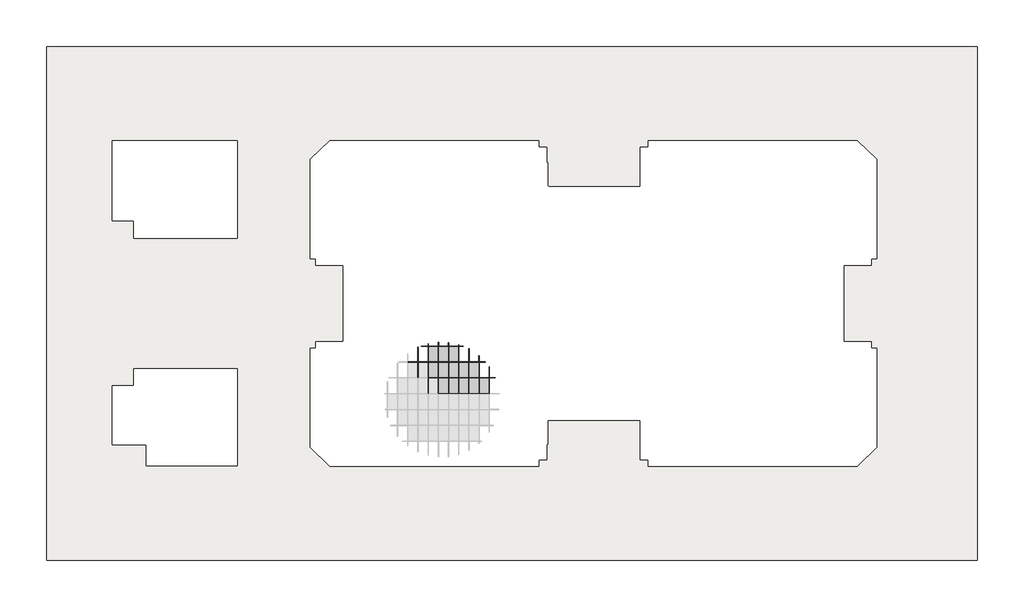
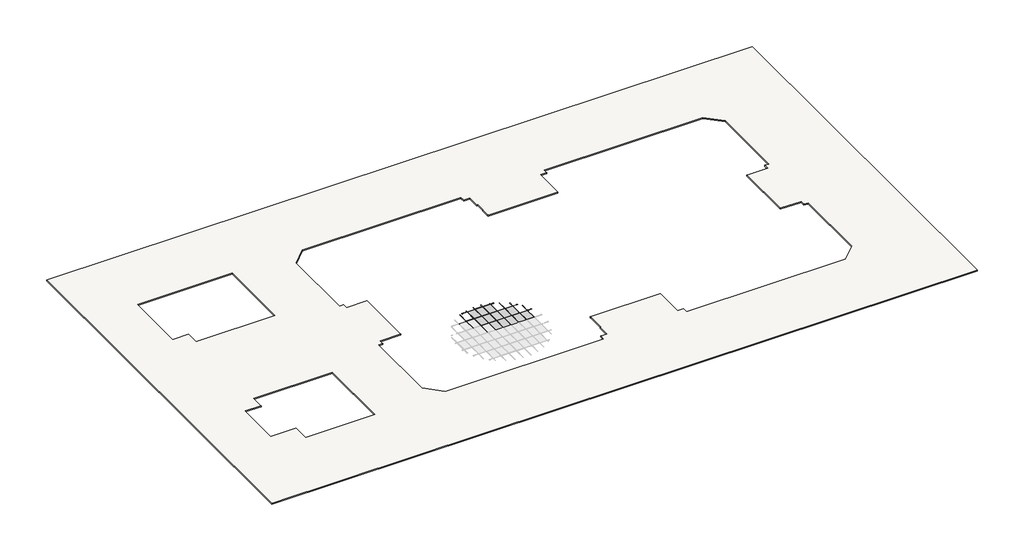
# One storey, part 2 of 2: 46 members, 13 plates, 1 slab.
"""IFC4 building model written with IfcOpenShell, lengths in millimetres."""

from ifc_helpers import new_model, si_unit, frame, origin, place, context, project, spatial, circle_curve, transform, mapped, element, save
from ifc_brep_helpers import plane_surface, cylinder_surface, advanced_brep
from components import member_0f460398, member_c475f96c, member_109a191c, member_92a3c778, member_22fd59af, member_68128557, member_23e6b94c, member_f8dc95a5, member_9c463893, member_92b00265, member_37619b6b, member_661f9a49, member_1a911b9f, member_37831322, plate_f02ba564

model = new_model("IFC4")

# Units and contexts
model_context = context("Model", 3, world=origin())
ifc_project = project(units=[si_unit("LENGTHUNIT", "METRE", prefix="MILLI")], contexts=[model_context])

# Site, building, storey
site = spatial("IfcSite", under=ifc_project)
building = spatial("IfcBuilding", under=site)
storey = spatial("IfcBuildingStorey", under=building, Name="樓層 3", Elevation=8500.0)

# Members
placement = place(None, origin())
member_shape = member_0f460398(model_context)
element("IfcMember", 1, ObjectType="圓形豎框 : 25mm 半徑", at=placement, inside=storey, context=model_context, shape_type="MappedRepresentation", body=[
    mapped(member_shape, transform((-3375.3955556, -13215.6700726, 9144.0), x_axis=(0.0, 1.0, 0.0), y_axis=(0.0, 0.0, 1.0), z_axis=(1.0, 0.0, 0.0))),
])
element("IfcMember", 2, ObjectType="圓形豎框 : 25mm 半徑", at=placement, inside=storey, context=model_context, shape_type="MappedRepresentation", body=[
    mapped(member_shape, transform((-5175.3955556, -13215.6700726, 9144.0), x_axis=(0.0, 1.0, 0.0), y_axis=(0.0, 0.0, 1.0), z_axis=(1.0, 0.0, 0.0))),
])
element("IfcMember", 3, ObjectType="圓形豎框 : 25mm 半徑", at=placement, inside=storey, context=model_context, shape_type="MappedRepresentation", body=[
    mapped(member_shape, transform((-6975.3955556, -13215.6700726, 9144.0), x_axis=(0.0, 1.0, 0.0), y_axis=(0.0, 0.0, 1.0), z_axis=(1.0, 0.0, 0.0))),
])
element("IfcMember", 4, ObjectType="圓形豎框 : 25mm 半徑", at=placement, inside=storey, context=model_context, shape_type="MappedRepresentation", body=[
    mapped(member_shape, transform((-8775.3955556, -13215.6700726, 9144.0), x_axis=(0.0, 1.0, 0.0), y_axis=(0.0, 0.0, 1.0), z_axis=(1.0, 0.0, 0.0))),
])
element("IfcMember", 5, ObjectType="圓形豎框 : 25mm 半徑", at=placement, inside=storey, context=model_context, shape_type="MappedRepresentation", body=[
    mapped(member_shape, transform((-10575.3955556, -13215.6700726, 9144.0), x_axis=(0.0, 1.0, 0.0), y_axis=(0.0, 0.0, 1.0), z_axis=(1.0, 0.0, 0.0))),
])
element("IfcMember", 6, ObjectType="圓形豎框 : 25mm 半徑", at=placement, inside=storey, context=model_context, shape_type="MappedRepresentation", body=[
    mapped(member_shape, transform((-12375.3955556, -13215.6700726, 9144.0), x_axis=(0.0, 1.0, 0.0), y_axis=(0.0, 0.0, 1.0), z_axis=(1.0, 0.0, 0.0))),
])
element("IfcMember", 7, ObjectType="圓形豎框 : 25mm 半徑", at=placement, inside=storey, context=model_context, shape_type="MappedRepresentation", body=[
    mapped(member_shape, transform((-5175.3955556, -10415.6700726, 9144.0), x_axis=(0.0, 1.0, 0.0), y_axis=(0.0, 0.0, 1.0), z_axis=(1.0, 0.0, 0.0))),
])
element("IfcMember", 8, ObjectType="圓形豎框 : 25mm 半徑", at=placement, inside=storey, context=model_context, shape_type="MappedRepresentation", body=[
    mapped(member_shape, transform((-6975.3955556, -10415.6700726, 9144.0), x_axis=(0.0, 1.0, 0.0), y_axis=(0.0, 0.0, 1.0), z_axis=(1.0, 0.0, 0.0))),
])
element("IfcMember", 9, ObjectType="圓形豎框 : 25mm 半徑", at=placement, inside=storey, context=model_context, shape_type="MappedRepresentation", body=[
    mapped(member_shape, transform((-8775.3955556, -10415.6700726, 9144.0), x_axis=(0.0, 1.0, 0.0), y_axis=(0.0, 0.0, 1.0), z_axis=(1.0, 0.0, 0.0))),
])
element("IfcMember", 10, ObjectType="圓形豎框 : 25mm 半徑", at=placement, inside=storey, context=model_context, shape_type="MappedRepresentation", body=[
    mapped(member_shape, transform((-10575.3955556, -10415.6700726, 9144.0), x_axis=(0.0, 1.0, 0.0), y_axis=(0.0, 0.0, 1.0), z_axis=(1.0, 0.0, 0.0))),
])
element("IfcMember", 11, ObjectType="圓形豎框 : 25mm 半徑", at=placement, inside=storey, context=model_context, shape_type="MappedRepresentation", body=[
    mapped(member_shape, transform((-12375.3955556, -10415.6700726, 9144.0), x_axis=(0.0, 1.0, 0.0), y_axis=(0.0, 0.0, 1.0), z_axis=(1.0, 0.0, 0.0))),
])
element("IfcMember", 12, ObjectType="圓形豎框 : 25mm 半徑", at=placement, inside=storey, context=model_context, shape_type="MappedRepresentation", body=[
    mapped(member_shape, transform((-14175.3955556, -10415.6700726, 9144.0), x_axis=(0.0, 1.0, 0.0), y_axis=(0.0, 0.0, 1.0), z_axis=(1.0, 0.0, 0.0))),
])
element("IfcMember", 13, ObjectType="圓形豎框 : 25mm 半徑", at=placement, inside=storey, context=model_context, shape_type="MappedRepresentation", body=[
    mapped(member_shape, transform((-15975.3955556, -10415.6700726, 9144.0), x_axis=(0.0, 1.0, 0.0), y_axis=(0.0, 0.0, 1.0), z_axis=(1.0, 0.0, 0.0))),
])
element("IfcMember", 14, ObjectType="圓形豎框 : 25mm 半徑", at=placement, inside=storey, context=model_context, shape_type="MappedRepresentation", body=[
    mapped(member_shape, transform((-8775.3955556, -7615.6700726, 9144.0), x_axis=(0.0, 1.0, 0.0), y_axis=(0.0, 0.0, 1.0), z_axis=(1.0, 0.0, 0.0))),
])
element("IfcMember", 15, ObjectType="圓形豎框 : 25mm 半徑", at=placement, inside=storey, context=model_context, shape_type="MappedRepresentation", body=[
    mapped(member_shape, transform((-10575.3955556, -7615.6700726, 9144.0), x_axis=(0.0, 1.0, 0.0), y_axis=(0.0, 0.0, 1.0), z_axis=(1.0, 0.0, 0.0))),
])
element("IfcMember", 16, ObjectType="圓形豎框 : 25mm 半徑", at=placement, inside=storey, context=model_context, shape_type="MappedRepresentation", body=[
    mapped(member_shape, transform((-12375.3955556, -7615.6700726, 9144.0), x_axis=(0.0, 1.0, 0.0), y_axis=(0.0, 0.0, 1.0), z_axis=(1.0, 0.0, 0.0))),
])
member_2_shape = member_c475f96c(model_context)
element("IfcMember", 17, ObjectType="圓形豎框 : 25mm 半徑", at=placement, inside=storey, context=model_context, shape_type="MappedRepresentation", body=[
    mapped(member_2_shape, transform((-2308.9229376, -13215.6700726, 9144.0), x_axis=(0.0, 1.0, 0.0), y_axis=(0.0, 0.0, 1.0), z_axis=(1.0, 0.0, 0.0))),
])
member_3_shape = member_109a191c(model_context)
element("IfcMember", 18, ObjectType="圓形豎框 : 25mm 半徑", at=placement, inside=storey, context=model_context, shape_type="MappedRepresentation", body=[
    mapped(member_3_shape, transform((-4032.3098346, -10415.6700726, 9144.0), x_axis=(0.0, 1.0, 0.0), y_axis=(0.0, 0.0, 1.0), z_axis=(1.0, 0.0, 0.0))),
])
member_4_shape = member_92a3c778(model_context)
element("IfcMember", 19, ObjectType="圓形豎框 : 25mm 半徑", at=placement, inside=storey, context=model_context, shape_type="MappedRepresentation", body=[
    mapped(member_4_shape, transform((-7996.4524665, -7615.6700726, 9144.0), x_axis=(0.0, 1.0, 0.0), y_axis=(0.0, 0.0, 1.0), z_axis=(1.0, 0.0, 0.0))),
])
member_5_shape = member_22fd59af(model_context)
element("IfcMember", 20, ObjectType="圓形豎框 : 25mm 半徑", at=placement, inside=storey, context=model_context, shape_type="MappedRepresentation", body=[
    mapped(member_5_shape, transform((-14175.3955556, -7615.6700726, 9144.0), x_axis=(0.0, 1.0, 0.0), y_axis=(0.0, 0.0, 1.0), z_axis=(1.0, 0.0, 0.0))),
])
member_6_shape = member_68128557(model_context)
element("IfcMember", 21, ObjectType="圓形豎框 : 25mm 半徑", at=placement, inside=storey, context=model_context, shape_type="MappedRepresentation", body=[
    mapped(member_6_shape, transform((-3350.3955556, -11295.0875121, 9144.0), x_axis=(-1.0, 0.0, 0.0), y_axis=(0.0, 0.0, 1.0), z_axis=(0.0, 1.0, 0.0))),
])
member_7_shape = member_23e6b94c(model_context)
element("IfcMember", 22, ObjectType="圓形豎框 : 25mm 半徑", at=placement, inside=storey, context=model_context, shape_type="MappedRepresentation", body=[
    mapped(member_7_shape, transform((-5150.3955556, -9311.9981023, 9144.0), x_axis=(-1.0, 0.0, 0.0), y_axis=(0.0, 0.0, 1.0), z_axis=(0.0, 1.0, 0.0))),
])
member_8_shape = member_f8dc95a5(model_context)
element("IfcMember", 23, ObjectType="圓形豎框 : 25mm 半徑", at=placement, inside=storey, context=model_context, shape_type="MappedRepresentation", body=[
    mapped(member_8_shape, transform((-6950.3955556, -8095.7604296, 9144.0), x_axis=(-1.0, 0.0, 0.0), y_axis=(0.0, 0.0, 1.0), z_axis=(0.0, 1.0, 0.0))),
])
member_9_shape = member_9c463893(model_context)
element("IfcMember", 24, ObjectType="圓形豎框 : 25mm 半徑", at=placement, inside=storey, context=model_context, shape_type="MappedRepresentation", body=[
    mapped(member_9_shape, transform((-8750.3955556, -7353.8655321, 9144.0), x_axis=(-1.0, 0.0, 0.0), y_axis=(0.0, 0.0, 1.0), z_axis=(0.0, 1.0, 0.0))),
])
member_10_shape = member_92b00265(model_context)
element("IfcMember", 25, ObjectType="圓形豎框 : 25mm 半徑", at=placement, inside=storey, context=model_context, shape_type="MappedRepresentation", body=[
    mapped(member_10_shape, transform((-10550.3955556, -6981.0759937, 9144.0), x_axis=(-1.0, 0.0, 0.0), y_axis=(0.0, 0.0, 1.0), z_axis=(0.0, 1.0, 0.0))),
])
member_11_shape = member_37619b6b(model_context)
element("IfcMember", 26, ObjectType="圓形豎框 : 25mm 半徑", at=placement, inside=storey, context=model_context, shape_type="MappedRepresentation", body=[
    mapped(member_11_shape, transform((-12350.3955556, -6936.5562391, 9144.0), x_axis=(-1.0, 0.0, 0.0), y_axis=(0.0, 0.0, 1.0), z_axis=(0.0, 1.0, 0.0))),
])
member_12_shape = member_661f9a49(model_context)
element("IfcMember", 27, ObjectType="圓形豎框 : 25mm 半徑", at=placement, inside=storey, context=model_context, shape_type="MappedRepresentation", body=[
    mapped(member_12_shape, transform((-14150.3955556, -7215.8542543, 9144.0), x_axis=(-1.0, 0.0, 0.0), y_axis=(0.0, 0.0, 1.0), z_axis=(0.0, 1.0, 0.0))),
])
member_13_shape = member_1a911b9f(model_context)
element("IfcMember", 28, ObjectType="圓形豎框 : 25mm 半徑", at=placement, inside=storey, context=model_context, shape_type="MappedRepresentation", body=[
    mapped(member_13_shape, transform((-15950.3955556, -7848.3596075, 9144.0), x_axis=(-1.0, 0.0, 0.0), y_axis=(0.0, 0.0, 1.0), z_axis=(0.0, 1.0, 0.0))),
])
member_14_shape = member_37831322(model_context)
element("IfcMember", 29, ObjectType="圓形豎框 : 25mm 半徑", at=placement, inside=storey, context=model_context, shape_type="MappedRepresentation", body=[
    mapped(member_14_shape, transform((-3350.3955556, -13215.6700726, 9144.0), x_axis=(-1.0, 0.0, 0.0), y_axis=(0.0, 0.0, 1.0), z_axis=(0.0, 1.0, 0.0))),
])
element("IfcMember", 30, ObjectType="圓形豎框 : 25mm 半徑", at=placement, inside=storey, context=model_context, shape_type="MappedRepresentation", body=[
    mapped(member_14_shape, transform((-5150.3955556, -13215.6700726, 9144.0), x_axis=(-1.0, 0.0, 0.0), y_axis=(0.0, 0.0, 1.0), z_axis=(0.0, 1.0, 0.0))),
])
element("IfcMember", 31, ObjectType="圓形豎框 : 25mm 半徑", at=placement, inside=storey, context=model_context, shape_type="MappedRepresentation", body=[
    mapped(member_14_shape, transform((-6950.3955556, -13215.6700726, 9144.0), x_axis=(-1.0, 0.0, 0.0), y_axis=(0.0, 0.0, 1.0), z_axis=(0.0, 1.0, 0.0))),
])
element("IfcMember", 32, ObjectType="圓形豎框 : 25mm 半徑", at=placement, inside=storey, context=model_context, shape_type="MappedRepresentation", body=[
    mapped(member_14_shape, transform((-8750.3955556, -13215.6700726, 9144.0), x_axis=(-1.0, 0.0, 0.0), y_axis=(0.0, 0.0, 1.0), z_axis=(0.0, 1.0, 0.0))),
])
element("IfcMember", 33, ObjectType="圓形豎框 : 25mm 半徑", at=placement, inside=storey, context=model_context, shape_type="MappedRepresentation", body=[
    mapped(member_14_shape, transform((-10550.3955556, -13215.6700726, 9144.0), x_axis=(-1.0, 0.0, 0.0), y_axis=(0.0, 0.0, 1.0), z_axis=(0.0, 1.0, 0.0))),
])
element("IfcMember", 34, ObjectType="圓形豎框 : 25mm 半徑", at=placement, inside=storey, context=model_context, shape_type="MappedRepresentation", body=[
    mapped(member_14_shape, transform((-12350.3955556, -13215.6700726, 9144.0), x_axis=(-1.0, 0.0, 0.0), y_axis=(0.0, 0.0, 1.0), z_axis=(0.0, 1.0, 0.0))),
])
element("IfcMember", 35, ObjectType="圓形豎框 : 25mm 半徑", at=placement, inside=storey, context=model_context, shape_type="MappedRepresentation", body=[
    mapped(member_14_shape, transform((-14150.3955556, -13215.6700726, 9144.0), x_axis=(-1.0, 0.0, 0.0), y_axis=(0.0, 0.0, 1.0), z_axis=(0.0, 1.0, 0.0))),
])
element("IfcMember", 36, ObjectType="圓形豎框 : 25mm 半徑", at=placement, inside=storey, context=model_context, shape_type="MappedRepresentation", body=[
    mapped(member_14_shape, transform((-5150.3955556, -10415.6700726, 9144.0), x_axis=(-1.0, 0.0, 0.0), y_axis=(0.0, 0.0, 1.0), z_axis=(0.0, 1.0, 0.0))),
])
element("IfcMember", 37, ObjectType="圓形豎框 : 25mm 半徑", at=placement, inside=storey, context=model_context, shape_type="MappedRepresentation", body=[
    mapped(member_14_shape, transform((-6950.3955556, -10415.6700726, 9144.0), x_axis=(-1.0, 0.0, 0.0), y_axis=(0.0, 0.0, 1.0), z_axis=(0.0, 1.0, 0.0))),
])
element("IfcMember", 38, ObjectType="圓形豎框 : 25mm 半徑", at=placement, inside=storey, context=model_context, shape_type="MappedRepresentation", body=[
    mapped(member_14_shape, transform((-8750.3955556, -10415.6700726, 9144.0), x_axis=(-1.0, 0.0, 0.0), y_axis=(0.0, 0.0, 1.0), z_axis=(0.0, 1.0, 0.0))),
])
element("IfcMember", 39, ObjectType="圓形豎框 : 25mm 半徑", at=placement, inside=storey, context=model_context, shape_type="MappedRepresentation", body=[
    mapped(member_14_shape, transform((-10550.3955556, -10415.6700726, 9144.0), x_axis=(-1.0, 0.0, 0.0), y_axis=(0.0, 0.0, 1.0), z_axis=(0.0, 1.0, 0.0))),
])
element("IfcMember", 40, ObjectType="圓形豎框 : 25mm 半徑", at=placement, inside=storey, context=model_context, shape_type="MappedRepresentation", body=[
    mapped(member_14_shape, transform((-12350.3955556, -10415.6700726, 9144.0), x_axis=(-1.0, 0.0, 0.0), y_axis=(0.0, 0.0, 1.0), z_axis=(0.0, 1.0, 0.0))),
])
element("IfcMember", 41, ObjectType="圓形豎框 : 25mm 半徑", at=placement, inside=storey, context=model_context, shape_type="MappedRepresentation", body=[
    mapped(member_14_shape, transform((-14150.3955556, -10415.6700726, 9144.0), x_axis=(-1.0, 0.0, 0.0), y_axis=(0.0, 0.0, 1.0), z_axis=(0.0, 1.0, 0.0))),
])
element("IfcMember", 42, ObjectType="圓形豎框 : 25mm 半徑", at=placement, inside=storey, context=model_context, shape_type="MappedRepresentation", body=[
    mapped(member_14_shape, transform((-15950.3955556, -10415.6700726, 9144.0), x_axis=(-1.0, 0.0, 0.0), y_axis=(0.0, 0.0, 1.0), z_axis=(0.0, 1.0, 0.0))),
])
element("IfcMember", 43, ObjectType="圓形豎框 : 25mm 半徑", at=placement, inside=storey, context=model_context, shape_type="MappedRepresentation", body=[
    mapped(member_14_shape, transform((-8750.3955556, -7615.6700726, 9144.0), x_axis=(-1.0, 0.0, 0.0), y_axis=(0.0, 0.0, 1.0), z_axis=(0.0, 1.0, 0.0))),
])
element("IfcMember", 44, ObjectType="圓形豎框 : 25mm 半徑", at=placement, inside=storey, context=model_context, shape_type="MappedRepresentation", body=[
    mapped(member_14_shape, transform((-10550.3955556, -7615.6700726, 9144.0), x_axis=(-1.0, 0.0, 0.0), y_axis=(0.0, 0.0, 1.0), z_axis=(0.0, 1.0, 0.0))),
])
element("IfcMember", 45, ObjectType="圓形豎框 : 25mm 半徑", at=placement, inside=storey, context=model_context, shape_type="MappedRepresentation", body=[
    mapped(member_14_shape, transform((-12350.3955556, -7615.6700726, 9144.0), x_axis=(-1.0, 0.0, 0.0), y_axis=(0.0, 0.0, 1.0), z_axis=(0.0, 1.0, 0.0))),
])
element("IfcMember", 46, ObjectType="圓形豎框 : 25mm 半徑", at=placement, inside=storey, context=model_context, shape_type="MappedRepresentation", body=[
    mapped(member_14_shape, transform((-14150.3955556, -7615.6700726, 9144.0), x_axis=(-1.0, 0.0, 0.0), y_axis=(0.0, 0.0, 1.0), z_axis=(0.0, 1.0, 0.0))),
])

# Plates
plate_shape = plate_f02ba564(model_context)
element("IfcPlate", 47, ObjectType="系統嵌板 : 玻璃 1.0cm", at=placement, inside=storey, context=model_context, shape_type="MappedRepresentation", body=[
    mapped(plate_shape, transform((-4250.3955556, -15990.6700726, 9144.0), x_axis=(-1.0, 0.0, 0.0), y_axis=(0.0, 0.0, 1.0), z_axis=(0.0, 1.0, 0.0))),
])
element("IfcPlate", 48, ObjectType="系統嵌板 : 玻璃 1.0cm", at=placement, inside=storey, context=model_context, shape_type="MappedRepresentation", body=[
    mapped(plate_shape, transform((-6050.3955556, -15990.6700726, 9144.0), x_axis=(-1.0, 0.0, 0.0), y_axis=(0.0, 0.0, 1.0), z_axis=(0.0, 1.0, 0.0))),
])
element("IfcPlate", 49, ObjectType="系統嵌板 : 玻璃 1.0cm", at=placement, inside=storey, context=model_context, shape_type="MappedRepresentation", body=[
    mapped(plate_shape, transform((-7850.3955556, -15990.6700726, 9144.0), x_axis=(-1.0, 0.0, 0.0), y_axis=(0.0, 0.0, 1.0), z_axis=(0.0, 1.0, 0.0))),
])
element("IfcPlate", 50, ObjectType="系統嵌板 : 玻璃 1.0cm", at=placement, inside=storey, context=model_context, shape_type="MappedRepresentation", body=[
    mapped(plate_shape, transform((-9650.3955556, -15990.6700726, 9144.0), x_axis=(-1.0, 0.0, 0.0), y_axis=(0.0, 0.0, 1.0), z_axis=(0.0, 1.0, 0.0))),
])
element("IfcPlate", 51, ObjectType="系統嵌板 : 玻璃 1.0cm", at=placement, inside=storey, context=model_context, shape_type="MappedRepresentation", body=[
    mapped(plate_shape, transform((-11450.3955556, -15990.6700726, 9144.0), x_axis=(-1.0, 0.0, 0.0), y_axis=(0.0, 0.0, 1.0), z_axis=(0.0, 1.0, 0.0))),
])
element("IfcPlate", 52, ObjectType="系統嵌板 : 玻璃 1.0cm", at=placement, inside=storey, context=model_context, shape_type="MappedRepresentation", body=[
    mapped(plate_shape, transform((-6050.3955556, -13190.6700726, 9144.0), x_axis=(-1.0, 0.0, 0.0), y_axis=(0.0, 0.0, 1.0), z_axis=(0.0, 1.0, 0.0))),
])
element("IfcPlate", 53, ObjectType="系統嵌板 : 玻璃 1.0cm", at=placement, inside=storey, context=model_context, shape_type="MappedRepresentation", body=[
    mapped(plate_shape, transform((-7850.3955556, -13190.6700726, 9144.0), x_axis=(-1.0, 0.0, 0.0), y_axis=(0.0, 0.0, 1.0), z_axis=(0.0, 1.0, 0.0))),
])
element("IfcPlate", 54, ObjectType="系統嵌板 : 玻璃 1.0cm", at=placement, inside=storey, context=model_context, shape_type="MappedRepresentation", body=[
    mapped(plate_shape, transform((-9650.3955556, -13190.6700726, 9144.0), x_axis=(-1.0, 0.0, 0.0), y_axis=(0.0, 0.0, 1.0), z_axis=(0.0, 1.0, 0.0))),
])
element("IfcPlate", 55, ObjectType="系統嵌板 : 玻璃 1.0cm", at=placement, inside=storey, context=model_context, shape_type="MappedRepresentation", body=[
    mapped(plate_shape, transform((-11450.3955556, -13190.6700726, 9144.0), x_axis=(-1.0, 0.0, 0.0), y_axis=(0.0, 0.0, 1.0), z_axis=(0.0, 1.0, 0.0))),
])
element("IfcPlate", 56, ObjectType="系統嵌板 : 玻璃 1.0cm", at=placement, inside=storey, context=model_context, shape_type="MappedRepresentation", body=[
    mapped(plate_shape, transform((-13250.3955556, -13190.6700726, 9144.0), x_axis=(-1.0, 0.0, 0.0), y_axis=(0.0, 0.0, 1.0), z_axis=(0.0, 1.0, 0.0))),
])
element("IfcPlate", 57, ObjectType="系統嵌板 : 玻璃 1.0cm", at=placement, inside=storey, context=model_context, shape_type="MappedRepresentation", body=[
    mapped(plate_shape, transform((-9650.3955556, -10390.6700726, 9144.0), x_axis=(-1.0, 0.0, 0.0), y_axis=(0.0, 0.0, 1.0), z_axis=(0.0, 1.0, 0.0))),
])
element("IfcPlate", 58, ObjectType="系統嵌板 : 玻璃 1.0cm", at=placement, inside=storey, context=model_context, shape_type="MappedRepresentation", body=[
    mapped(plate_shape, transform((-11450.3955556, -10390.6700726, 9144.0), x_axis=(-1.0, 0.0, 0.0), y_axis=(0.0, 0.0, 1.0), z_axis=(0.0, 1.0, 0.0))),
])
element("IfcPlate", 59, ObjectType="系統嵌板 : 玻璃 1.0cm", at=placement, inside=storey, context=model_context, shape_type="MappedRepresentation", body=[
    mapped(plate_shape, transform((-13250.3955556, -10390.6700726, 9144.0), x_axis=(-1.0, 0.0, 0.0), y_axis=(0.0, 0.0, 1.0), z_axis=(0.0, 1.0, 0.0))),
])

# Slab
element("IfcSlab", 60, ObjectType="基板 - 25cm", at=placement, inside=storey, context=model_context, shape_type="AdvancedBrep", body=[
    advanced_brep(
    [(82913.7769574, 45327.9067124, 8250.0), (82913.7769574, -45467.0932876, 8250.0), (-81591.2230426, -45467.0932876, 8250.0), (-81591.2230426, 45327.9067124, 8250.0), (61705.1068576, -28837.0932876, 8250.0), (65103.7769574, -25500.0305008, 8250.0), (65103.7769574, -7967.0932876, 8250.0), (64123.7769574, -7967.0932876, 8250.0), (64123.7769574, -6827.0932876, 8250.0), (59298.7769574, -6827.0932876, 8250.0), (59298.7769574, 6712.9067124, 8250.0), (64123.7769574, 6712.9067124, 8250.0), (64123.7769574, 7852.9067124, 8250.0), (65103.7769574, 7852.9067124, 8250.0), (65103.7769574, 25385.8439255, 8250.0), (61705.1068576, 28722.9067124, 8250.0), (24773.7769574, 28722.9067124, 8250.0), (24773.7769574, 27570.4067124, 8250.0), (23333.7769574, 27570.4067124, 8250.0), (23333.7769574, 20677.9067124, 8250.0), (23243.7769574, 20587.9067124, 8250.0), (7128.4112757, 20587.9067124, 8250.0), (7013.7769574, 20653.2723941, 8250.0), (7013.7769574, 24817.9067124, 8250.0), (6813.7769574, 24817.9067124, 8250.0), (6813.7769574, 27570.4067124, 8250.0), (5373.7769574, 27570.4067124, 8250.0), (5373.7769574, 28722.9067124, 8250.0), (-31557.5529427, 28722.9067124, 8250.0), (-34956.2230426, 25385.8439255, 8250.0), (-34956.2230426, 7852.9067124, 8250.0), (-33976.2230426, 7852.9067124, 8250.0), (-33976.2230426, 6712.9067124, 8250.0), (-29151.2230426, 6712.9067124, 8250.0), (-29151.2230426, -6827.0932876, 8250.0), (-33976.2230426, -6827.0932876, 8250.0), (-33976.2230426, -7967.0932876, 8250.0), (-34956.2230426, -7967.0932876, 8250.0), (-34956.2230426, -25500.0305008, 8250.0), (-31557.5529427, -28837.0932876, 8250.0), (5373.7769574, -28837.0932876, 8250.0), (5373.7769574, -27684.5932876, 8250.0), (6813.7769574, -27684.5932876, 8250.0), (6813.7769574, -24932.0932876, 8250.0), (7013.7769574, -24932.0932876, 8250.0), (7013.7769574, -20752.0932876, 8250.0), (7063.7769574, -20702.0932876, 8250.0), (23283.7769574, -20702.0932876, 8250.0), (23333.7769574, -20752.0932876, 8250.0), (23333.7769574, -27684.5932876, 8250.0), (24773.7769574, -27684.5932876, 8250.0), (24773.7769574, -28837.0932876, 8250.0), (-66206.2230426, 11487.3962872, 8250.0), (-47926.2230426, 11487.3962872, 8250.0), (-47926.2230426, 28677.9067124, 8250.0), (-69966.2230426, 28677.9067124, 8250.0), (-69966.2230426, 14529.9067124, 8250.0), (-66206.2230426, 14529.9067124, 8250.0), (-66206.2230426, 14379.9067124, 8250.0), (-69966.2230426, -14644.0932876, 8250.0), (-69966.2230426, -25005.0932876, 8250.0), (-63996.109987, -25005.0932876, 8250.0), (-63996.109987, -25155.0932876, 8250.0), (-63996.109987, -28792.0932876, 8250.0), (-47926.2230426, -28792.0932876, 8250.0), (-47926.2230426, -11601.5828624, 8250.0), (-66206.2230426, -11601.5828624, 8250.0), (-66206.2230426, -14644.0932876, 8250.0), (-66356.2230426, -14644.0932876, 8250.0), (82913.7769574, 45327.9067124, 8500.0), (-81591.2230426, 45327.9067124, 8500.0), (-81591.2230426, -45467.0932876, 8500.0), (82913.7769574, -45467.0932876, 8500.0), (61705.1068576, -28837.0932876, 8500.0), (24773.7769574, -28837.0932876, 8500.0), (24773.7769574, -27684.5932876, 8500.0), (23333.7769574, -27684.5932876, 8500.0), (23333.7769574, -20752.0932876, 8500.0), (23283.7769574, -20702.0932876, 8500.0), (7063.7769574, -20702.0932876, 8500.0), (7013.7769574, -20752.0932876, 8500.0), (7013.7769574, -24932.0932876, 8500.0), (6813.7769574, -24932.0932876, 8500.0), (6813.7769574, -27684.5932876, 8500.0), (5373.7769574, -27684.5932876, 8500.0), (5373.7769574, -28837.0932876, 8500.0), (-31557.5529427, -28837.0932876, 8500.0), (-34956.2230426, -25500.0305008, 8500.0), (-34956.2230426, -7967.0932876, 8500.0), (-33976.2230426, -7967.0932876, 8500.0), (-33976.2230426, -6827.0932876, 8500.0), (-29151.2230426, -6827.0932876, 8500.0), (-29151.2230426, 6712.9067124, 8500.0), (-33976.2230426, 6712.9067124, 8500.0), (-33976.2230426, 7852.9067124, 8500.0), (-34956.2230426, 7852.9067124, 8500.0), (-34956.2230426, 25385.8439255, 8500.0), (-31557.5529427, 28722.9067124, 8500.0), (5373.7769574, 28722.9067124, 8500.0), (5373.7769574, 27570.4067124, 8500.0), (6813.7769574, 27570.4067124, 8500.0), (6813.7769574, 24817.9067124, 8500.0), (7013.7769574, 24817.9067124, 8500.0), (7013.7769574, 20653.2723941, 8500.0), (7128.4112757, 20587.9067124, 8500.0), (23243.7769574, 20587.9067124, 8500.0), (23333.7769574, 20677.9067124, 8500.0), (23333.7769574, 27570.4067124, 8500.0), (24773.7769574, 27570.4067124, 8500.0), (24773.7769574, 28722.9067124, 8500.0), (61705.1068576, 28722.9067124, 8500.0), (65103.7769574, 25385.8439255, 8500.0), (65103.7769574, 7852.9067124, 8500.0), (64123.7769574, 7852.9067124, 8500.0), (64123.7769574, 6712.9067124, 8500.0), (59298.7769574, 6712.9067124, 8500.0), (59298.7769574, -6827.0932876, 8500.0), (64123.7769574, -6827.0932876, 8500.0), (64123.7769574, -7967.0932876, 8500.0), (65103.7769574, -7967.0932876, 8500.0), (65103.7769574, -25500.0305008, 8500.0), (-66206.2230426, 11487.3962872, 8500.0), (-66206.2230426, 14379.9067124, 8500.0), (-66206.2230426, 14529.9067124, 8500.0), (-69966.2230426, 14529.9067124, 8500.0), (-69966.2230426, 28677.9067124, 8500.0), (-47926.2230426, 28677.9067124, 8500.0), (-47926.2230426, 11487.3962872, 8500.0), (-69966.2230426, -14644.0932876, 8500.0), (-66356.2230426, -14644.0932876, 8500.0), (-66206.2230426, -14644.0932876, 8500.0), (-66206.2230426, -11601.5828624, 8500.0), (-47926.2230426, -11601.5828624, 8500.0), (-47926.2230426, -28792.0932876, 8500.0), (-63996.109987, -28792.0932876, 8500.0), (-63996.109987, -25155.0932876, 8500.0), (-63996.109987, -25005.0932876, 8500.0), (-69966.2230426, -25005.0932876, 8500.0)],
    [
        (0, 1),
        (1, 2),
        (2, 3),
        (3, 0),
        (4, 5),
        (5, 6),
        (6, 7),
        (7, 8),
        (8, 9),
        (9, 10),
        (10, 11),
        (11, 12),
        (12, 13),
        (13, 14),
        (14, 15),
        (15, 16),
        (16, 17),
        (17, 18),
        (18, 19),
        (19, 20, circle_curve(frame((23243.7769574, 20677.9067124, 8250.0), z_axis=(0.0, 0.0, -1.0), x_axis=(1.0, 0.0, 0.0)), 90.0)),
        (20, 21),
        (21, 22, circle_curve(frame((7103.7769574, 20677.9067124, 8250.0), z_axis=(0.0, 0.0, -1.0), x_axis=(1.0, 0.0, 0.0)), 93.3105012)),
        (22, 23),
        (23, 24),
        (24, 25),
        (25, 26),
        (26, 27),
        (27, 28),
        (28, 29),
        (29, 30),
        (30, 31),
        (31, 32),
        (32, 33),
        (33, 34),
        (34, 35),
        (35, 36),
        (36, 37),
        (37, 38),
        (38, 39),
        (39, 40),
        (40, 41),
        (41, 42),
        (42, 43),
        (43, 44),
        (44, 45),
        (45, 46, circle_curve(frame((7063.7769574, -20752.0932876, 8250.0), z_axis=(0.0, 0.0, -1.0), x_axis=(1.0, 0.0, 0.0)), 50.0)),
        (46, 47),
        (47, 48, circle_curve(frame((23283.7769574, -20752.0932876, 8250.0), z_axis=(0.0, 0.0, -1.0), x_axis=(1.0, 0.0, 0.0)), 50.0)),
        (48, 49),
        (49, 50),
        (50, 51),
        (51, 4),
        (52, 53),
        (53, 54),
        (54, 55),
        (55, 56),
        (56, 57),
        (57, 58),
        (58, 52),
        (59, 60),
        (60, 61),
        (61, 62),
        (62, 63),
        (63, 64),
        (64, 65),
        (65, 66),
        (66, 67),
        (67, 68),
        (68, 59),
        (69, 70),
        (70, 71),
        (71, 72),
        (72, 69),
        (73, 74),
        (74, 75),
        (75, 76),
        (76, 77),
        (77, 78, circle_curve(frame((23283.7769574, -20752.0932876, 8500.0), z_axis=(0.0, 0.0, 1.0), x_axis=(1.0, 0.0, 0.0)), 50.0)),
        (78, 79),
        (79, 80, circle_curve(frame((7063.7769574, -20752.0932876, 8500.0), z_axis=(0.0, 0.0, 1.0), x_axis=(1.0, 0.0, 0.0)), 50.0)),
        (80, 81),
        (81, 82),
        (82, 83),
        (83, 84),
        (84, 85),
        (85, 86),
        (86, 87),
        (87, 88),
        (88, 89),
        (89, 90),
        (90, 91),
        (91, 92),
        (92, 93),
        (93, 94),
        (94, 95),
        (95, 96),
        (96, 97),
        (97, 98),
        (98, 99),
        (99, 100),
        (100, 101),
        (101, 102),
        (102, 103),
        (103, 104, circle_curve(frame((7103.7769574, 20677.9067124, 8500.0), z_axis=(0.0, 0.0, 1.0), x_axis=(1.0, 0.0, 0.0)), 93.3105012)),
        (104, 105),
        (105, 106, circle_curve(frame((23243.7769574, 20677.9067124, 8500.0), z_axis=(0.0, 0.0, 1.0), x_axis=(1.0, 0.0, 0.0)), 90.0)),
        (106, 107),
        (107, 108),
        (108, 109),
        (109, 110),
        (110, 111),
        (111, 112),
        (112, 113),
        (113, 114),
        (114, 115),
        (115, 116),
        (116, 117),
        (117, 118),
        (118, 119),
        (119, 120),
        (120, 73),
        (121, 122),
        (122, 123),
        (123, 124),
        (124, 125),
        (125, 126),
        (126, 127),
        (127, 121),
        (128, 129),
        (129, 130),
        (130, 131),
        (131, 132),
        (132, 133),
        (133, 134),
        (134, 135),
        (135, 136),
        (136, 137),
        (137, 128),
        (0, 69),
        (72, 1),
        (71, 2),
        (70, 3),
        (4, 73),
        (120, 5),
        (119, 6),
        (118, 7),
        (117, 8),
        (116, 9),
        (115, 10),
        (114, 11),
        (113, 12),
        (112, 13),
        (111, 14),
        (110, 15),
        (109, 16),
        (108, 17),
        (107, 18),
        (106, 19),
        (105, 20),
        (104, 21),
        (103, 22),
        (102, 23),
        (101, 24),
        (100, 25),
        (99, 26),
        (98, 27),
        (97, 28),
        (96, 29),
        (95, 30),
        (94, 31),
        (93, 32),
        (92, 33),
        (91, 34),
        (90, 35),
        (89, 36),
        (88, 37),
        (87, 38),
        (86, 39),
        (85, 40),
        (84, 41),
        (83, 42),
        (82, 43),
        (81, 44),
        (80, 45),
        (79, 46),
        (78, 47),
        (77, 48),
        (76, 49),
        (75, 50),
        (74, 51),
        (59, 128),
        (137, 60),
        (136, 61),
        (134, 63),
        (133, 64),
        (132, 65),
        (131, 66),
        (130, 67),
        (52, 121),
        (127, 53),
        (126, 54),
        (125, 55),
        (124, 56),
        (123, 57),
    ],
    [
        plane_surface(frame((82913.7769574, 45402.9067124, 8250.0), z_axis=(0.0, 0.0, -1.0), x_axis=(0.0, -1.0, 0.0))),
        plane_surface(frame((82913.7769574, 45402.9067124, 8500.0), z_axis=(0.0, 0.0, 1.0), x_axis=(0.0, 1.0, 0.0))),
        plane_surface(frame((82913.7769574, 45327.9067124, 8250.0), z_axis=(1.0, 0.0, 0.0), x_axis=(0.0, 0.0, 1.0))),
        plane_surface(frame((82913.7769574, -45467.0932876, 8250.0), z_axis=(0.0, -1.0, 0.0), x_axis=(0.0, 0.0, 1.0))),
        plane_surface(frame((-81591.2230426, -45467.0932876, 8250.0), z_axis=(-1.0, 0.0, 0.0), x_axis=(0.0, 0.0, 1.0))),
        plane_surface(frame((-81591.2230426, 45327.9067124, 8250.0), z_axis=(0.0, 1.0, 0.0), x_axis=(0.0, 0.0, 1.0))),
        plane_surface(frame((61705.1068576, -28837.0932876, 8250.0), z_axis=(-0.7006100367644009, 0.7135443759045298, 0.0), x_axis=(0.0, 0.0, 1.0))),
        plane_surface(frame((65103.7769574, -25500.0305008, 8250.0), z_axis=(-1.0, 0.0, 0.0), x_axis=(0.0, 0.0, 1.0))),
        plane_surface(frame((65103.7769574, -7967.0932876, 8250.0), z_axis=(0.0, -1.0, 0.0), x_axis=(0.0, 0.0, 1.0))),
        plane_surface(frame((64123.7769574, -7967.0932876, 8250.0), z_axis=(-1.0, 0.0, 0.0), x_axis=(0.0, 0.0, 1.0))),
        plane_surface(frame((64123.7769574, -6827.0932876, 8250.0), z_axis=(0.0, -1.0, 0.0), x_axis=(0.0, 0.0, 1.0))),
        plane_surface(frame((59298.7769574, -6827.0932876, 8250.0), z_axis=(-1.0, 0.0, 0.0), x_axis=(0.0, 0.0, 1.0))),
        plane_surface(frame((59298.7769574, 6712.9067124, 8250.0), z_axis=(0.0, 1.0, 0.0), x_axis=(0.0, 0.0, 1.0))),
        plane_surface(frame((64123.7769574, 6712.9067124, 8250.0), z_axis=(-1.0, 0.0, 0.0), x_axis=(0.0, 0.0, 1.0))),
        plane_surface(frame((64123.7769574, 7852.9067124, 8250.0), z_axis=(0.0, 1.0, 0.0), x_axis=(0.0, 0.0, 1.0))),
        plane_surface(frame((65103.7769574, 7852.9067124, 8250.0), z_axis=(-1.0, 0.0, 0.0), x_axis=(0.0, 0.0, 1.0))),
        plane_surface(frame((65103.7769574, 25385.8439255, 8250.0), z_axis=(-0.7006100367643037, -0.7135443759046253, 0.0), x_axis=(0.0, 0.0, 1.0))),
        plane_surface(frame((61705.1068576, 28722.9067124, 8250.0), z_axis=(0.0, -1.0, 0.0), x_axis=(0.0, 0.0, 1.0))),
        plane_surface(frame((24773.7769574, 28722.9067124, 8250.0), z_axis=(1.0, 0.0, 0.0), x_axis=(0.0, 0.0, 1.0))),
        plane_surface(frame((24773.7769574, 27570.4067124, 8250.0), z_axis=(0.0, -1.0, 0.0), x_axis=(0.0, 0.0, 1.0))),
        plane_surface(frame((23333.7769574, 27570.4067124, 8250.0), z_axis=(1.0, 0.0, 0.0), x_axis=(0.0, 0.0, 1.0))),
        cylinder_surface(frame((23243.7769574, 20677.9067124, 8500.0), z_axis=(0.0, 0.0, -1.0), x_axis=(1.0, 0.0, 0.0)), 90.0),
        plane_surface(frame((23243.7769574, 20587.9067124, 8250.0), z_axis=(0.0, -1.0, 0.0), x_axis=(0.0, 0.0, 1.0))),
        cylinder_surface(frame((7103.7769574, 20677.9067124, 8500.0), z_axis=(0.0, 0.0, -1.0), x_axis=(1.0, 0.0, 0.0)), 93.3105012),
        plane_surface(frame((7013.7769574, 20653.2723941, 8250.0), z_axis=(-1.0, 0.0, 0.0), x_axis=(0.0, 0.0, 1.0))),
        plane_surface(frame((7013.7769574, 24817.9067124, 8250.0), z_axis=(0.0, -1.0, 0.0), x_axis=(0.0, 0.0, 1.0))),
        plane_surface(frame((6813.7769574, 24817.9067124, 8250.0), z_axis=(-1.0, 0.0, 0.0), x_axis=(0.0, 0.0, 1.0))),
        plane_surface(frame((6813.7769574, 27570.4067124, 8250.0), z_axis=(0.0, -1.0, 0.0), x_axis=(0.0, 0.0, 1.0))),
        plane_surface(frame((5373.7769574, 27570.4067124, 8250.0), z_axis=(-1.0, 0.0, 0.0), x_axis=(0.0, 0.0, 1.0))),
        plane_surface(frame((5373.7769574, 28722.9067124, 8250.0), z_axis=(0.0, -1.0, 0.0), x_axis=(0.0, 0.0, 1.0))),
        plane_surface(frame((-31557.5529427, 28722.9067124, 8250.0), z_axis=(0.7006100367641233, -0.7135443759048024, 0.0), x_axis=(0.0, 0.0, 1.0))),
        plane_surface(frame((-34956.2230426, 25385.8439255, 8250.0), z_axis=(1.0, 0.0, 0.0), x_axis=(0.0, 0.0, 1.0))),
        plane_surface(frame((-34956.2230426, 7852.9067124, 8250.0), z_axis=(0.0, 1.0, 0.0), x_axis=(0.0, 0.0, 1.0))),
        plane_surface(frame((-33976.2230426, 7852.9067124, 8250.0), z_axis=(1.0, 0.0, 0.0), x_axis=(0.0, 0.0, 1.0))),
        plane_surface(frame((-33976.2230426, 6712.9067124, 8250.0), z_axis=(0.0, 1.0, 0.0), x_axis=(0.0, 0.0, 1.0))),
        plane_surface(frame((-29151.2230426, 6712.9067124, 8250.0), z_axis=(1.0, 0.0, 0.0), x_axis=(0.0, 0.0, 1.0))),
        plane_surface(frame((-29151.2230426, -6827.0932876, 8250.0), z_axis=(0.0, -1.0, 0.0), x_axis=(0.0, 0.0, 1.0))),
        plane_surface(frame((-33976.2230426, -6827.0932876, 8250.0), z_axis=(1.0, 0.0, 0.0), x_axis=(0.0, 0.0, 1.0))),
        plane_surface(frame((-33976.2230426, -7967.0932876, 8250.0), z_axis=(0.0, -1.0, 0.0), x_axis=(0.0, 0.0, 1.0))),
        plane_surface(frame((-34956.2230426, -7967.0932876, 8250.0), z_axis=(1.0, 0.0, 0.0), x_axis=(0.0, 0.0, 1.0))),
        plane_surface(frame((-34956.2230426, -25500.0305008, 8250.0), z_axis=(0.7006100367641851, 0.7135443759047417, 0.0), x_axis=(0.0, 0.0, 1.0))),
        plane_surface(frame((-31557.5529427, -28837.0932876, 8250.0), z_axis=(0.0, 1.0, 0.0), x_axis=(0.0, 0.0, 1.0))),
        plane_surface(frame((5373.7769574, -28837.0932876, 8250.0), z_axis=(-1.0, 0.0, 0.0), x_axis=(0.0, 0.0, 1.0))),
        plane_surface(frame((5373.7769574, -27684.5932876, 8250.0), z_axis=(0.0, 1.0, 0.0), x_axis=(0.0, 0.0, 1.0))),
        plane_surface(frame((6813.7769574, -27684.5932876, 8250.0), z_axis=(-1.0, 0.0, 0.0), x_axis=(0.0, 0.0, 1.0))),
        plane_surface(frame((6813.7769574, -24932.0932876, 8250.0), z_axis=(0.0, 1.0, 0.0), x_axis=(0.0, 0.0, 1.0))),
        plane_surface(frame((7013.7769574, -24932.0932876, 8250.0), z_axis=(-1.0, 0.0, 0.0), x_axis=(0.0, 0.0, 1.0))),
        cylinder_surface(frame((7063.7769574, -20752.0932876, 8500.0), z_axis=(0.0, 0.0, -1.0), x_axis=(1.0, 0.0, 0.0)), 50.0),
        plane_surface(frame((7063.7769574, -20702.0932876, 8250.0), z_axis=(0.0, 1.0, 0.0), x_axis=(0.0, 0.0, 1.0))),
        cylinder_surface(frame((23283.7769574, -20752.0932876, 8500.0), z_axis=(0.0, 0.0, -1.0), x_axis=(1.0, 0.0, 0.0)), 50.0),
        plane_surface(frame((23333.7769574, -20752.0932876, 8250.0), z_axis=(1.0, 0.0, 0.0), x_axis=(0.0, 0.0, 1.0))),
        plane_surface(frame((23333.7769574, -27684.5932876, 8250.0), z_axis=(0.0, 1.0, 0.0), x_axis=(0.0, 0.0, 1.0))),
        plane_surface(frame((24773.7769574, -27684.5932876, 8250.0), z_axis=(1.0, 0.0, 0.0), x_axis=(0.0, 0.0, 1.0))),
        plane_surface(frame((24773.7769574, -28837.0932876, 8250.0), z_axis=(0.0, 1.0, 0.0), x_axis=(0.0, 0.0, 1.0))),
        plane_surface(frame((-69966.2230426, -14644.0932876, 8250.0), z_axis=(1.0, 0.0, 0.0), x_axis=(0.0, 0.0, 1.0))),
        plane_surface(frame((-69966.2230426, -25005.0932876, 8250.0), z_axis=(0.0, 1.0, 0.0), x_axis=(0.0, 0.0, 1.0))),
        plane_surface(frame((-63996.109987, -25005.0932876, 8250.0), z_axis=(1.0, 0.0, 0.0), x_axis=(0.0, 0.0, 1.0))),
        plane_surface(frame((-63996.109987, -28792.0932876, 8250.0), z_axis=(0.0, 1.0, 0.0), x_axis=(0.0, 0.0, 1.0))),
        plane_surface(frame((-47926.2230426, -28792.0932876, 8250.0), z_axis=(-1.0, 0.0, 0.0), x_axis=(0.0, 0.0, 1.0))),
        plane_surface(frame((-47926.2230426, -11601.5828624, 8250.0), z_axis=(0.0, -1.0, 0.0), x_axis=(0.0, 0.0, 1.0))),
        plane_surface(frame((-66206.2230426, -11601.5828624, 8250.0), z_axis=(1.0, 0.0, 0.0), x_axis=(0.0, 0.0, 1.0))),
        plane_surface(frame((-66206.2230426, -14644.0932876, 8250.0), z_axis=(0.0, -1.0, 0.0), x_axis=(0.0, 0.0, 1.0))),
        plane_surface(frame((-66206.2230426, 11487.3962872, 8250.0), z_axis=(0.0, 1.0, 0.0), x_axis=(0.0, 0.0, 1.0))),
        plane_surface(frame((-47926.2230426, 11487.3962872, 8250.0), z_axis=(-1.0, 0.0, 0.0), x_axis=(0.0, 0.0, 1.0))),
        plane_surface(frame((-47926.2230426, 28677.9067124, 8250.0), z_axis=(0.0, -1.0, 0.0), x_axis=(0.0, 0.0, 1.0))),
        plane_surface(frame((-69966.2230426, 28677.9067124, 8250.0), z_axis=(1.0, 0.0, 0.0), x_axis=(0.0, 0.0, 1.0))),
        plane_surface(frame((-69966.2230426, 14529.9067124, 8250.0), z_axis=(0.0, 1.0, 0.0), x_axis=(0.0, 0.0, 1.0))),
        plane_surface(frame((-66206.2230426, 14529.9067124, 8250.0), z_axis=(1.0, 0.0, 0.0), x_axis=(0.0, 0.0, 1.0))),
    ],
    [
        (0, [[1, 2, 3, 4], [5, 6, 7, 8, 9, 10, 11, 12, 13, 14, 15, 16, 17, 18, 19, 20, 21, 22, 23, 24, 25, 26, 27, 28, 29, 30, 31, 32, 33, 34, 35, 36, 37, 38, 39, 40, 41, 42, 43, 44, 45, 46, 47, 48, 49, 50, 51, 52], [53, 54, 55, 56, 57, 58, 59], [60, 61, 62, 63, 64, 65, 66, 67, 68, 69]]),
        (1, [[70, 71, 72, 73], [74, 75, 76, 77, 78, 79, 80, 81, 82, 83, 84, 85, 86, 87, 88, 89, 90, 91, 92, 93, 94, 95, 96, 97, 98, 99, 100, 101, 102, 103, 104, 105, 106, 107, 108, 109, 110, 111, 112, 113, 114, 115, 116, 117, 118, 119, 120, 121], [122, 123, 124, 125, 126, 127, 128], [129, 130, 131, 132, 133, 134, 135, 136, 137, 138]]),
        (2, [[-1, 139, -73, 140]]),
        (3, [[-2, -140, -72, 141]]),
        (4, [[-3, -141, -71, 142]]),
        (5, [[-4, -142, -70, -139]]),
        (6, [[-5, 143, -121, 144]]),
        (7, [[-6, -144, -120, 145]]),
        (8, [[-7, -145, -119, 146]]),
        (9, [[-8, -146, -118, 147]]),
        (10, [[-9, -147, -117, 148]]),
        (11, [[-10, -148, -116, 149]]),
        (12, [[-11, -149, -115, 150]]),
        (13, [[-12, -150, -114, 151]]),
        (14, [[-13, -151, -113, 152]]),
        (15, [[-14, -152, -112, 153]]),
        (16, [[-15, -153, -111, 154]]),
        (17, [[-16, -154, -110, 155]]),
        (18, [[-17, -155, -109, 156]]),
        (19, [[-18, -156, -108, 157]]),
        (20, [[-19, -157, -107, 158]]),
        (21, [[-20, -158, -106, 159]]),
        (22, [[-21, -159, -105, 160]]),
        (23, [[-22, -160, -104, 161]]),
        (24, [[-23, -161, -103, 162]]),
        (25, [[-24, -162, -102, 163]]),
        (26, [[-25, -163, -101, 164]]),
        (27, [[-26, -164, -100, 165]]),
        (28, [[-27, -165, -99, 166]]),
        (29, [[-28, -166, -98, 167]]),
        (30, [[-29, -167, -97, 168]]),
        (31, [[-30, -168, -96, 169]]),
        (32, [[-31, -169, -95, 170]]),
        (33, [[-32, -170, -94, 171]]),
        (34, [[-33, -171, -93, 172]]),
        (35, [[-34, -172, -92, 173]]),
        (36, [[-35, -173, -91, 174]]),
        (37, [[-36, -174, -90, 175]]),
        (38, [[-37, -175, -89, 176]]),
        (39, [[-38, -176, -88, 177]]),
        (40, [[-39, -177, -87, 178]]),
        (41, [[-40, -178, -86, 179]]),
        (42, [[-41, -179, -85, 180]]),
        (43, [[-42, -180, -84, 181]]),
        (44, [[-43, -181, -83, 182]]),
        (45, [[-44, -182, -82, 183]]),
        (46, [[-45, -183, -81, 184]]),
        (47, [[-46, -184, -80, 185]]),
        (48, [[-47, -185, -79, 186]]),
        (49, [[-48, -186, -78, 187]]),
        (50, [[-49, -187, -77, 188]]),
        (51, [[-50, -188, -76, 189]]),
        (52, [[-51, -189, -75, 190]]),
        (53, [[-52, -190, -74, -143]]),
        (54, [[-60, 191, -138, 192]]),
        (55, [[-61, -192, -137, 193]]),
        (56, [[-63, -62, -193, -136, -135, 194]]),
        (57, [[-64, -194, -134, 195]]),
        (58, [[-65, -195, -133, 196]]),
        (59, [[-66, -196, -132, 197]]),
        (60, [[-67, -197, -131, 198]]),
        (61, [[-69, -68, -198, -130, -129, -191]]),
        (62, [[-53, 199, -128, 200]]),
        (63, [[-54, -200, -127, 201]]),
        (64, [[-55, -201, -126, 202]]),
        (65, [[-56, -202, -125, 203]]),
        (66, [[-57, -203, -124, 204]]),
        (67, [[-59, -58, -204, -123, -122, -199]]),
    ],
),
])

save(model, "model.ifc")
